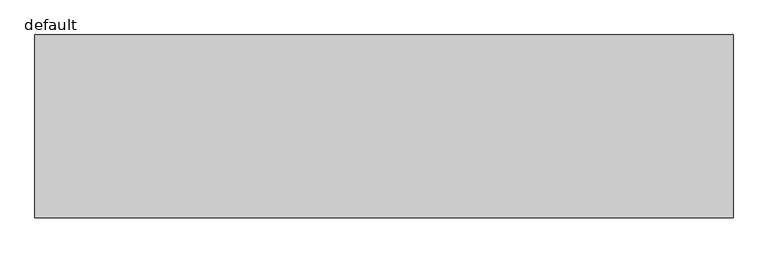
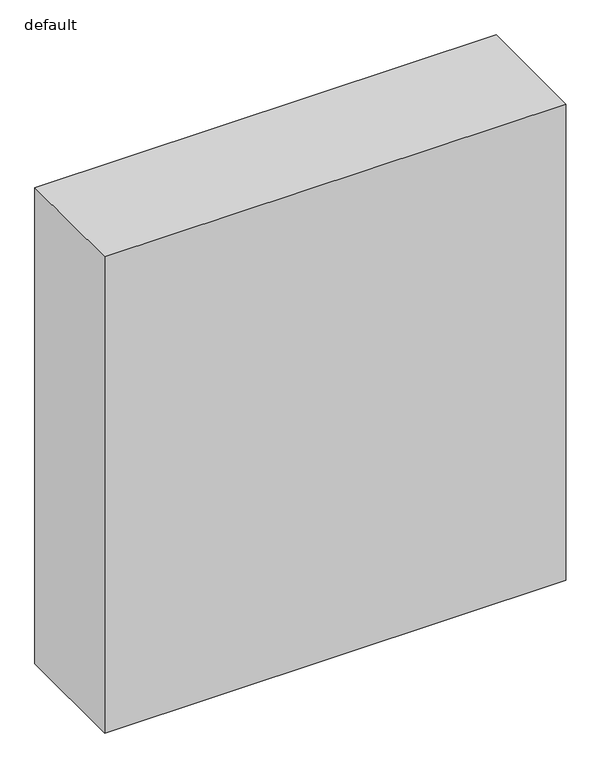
"""IFC4 building model written with IfcOpenShell, lengths in millimetres: furniture geometry, Fu_шкаф встроенный_LEG : default."""

import ifcopenshell
import ifcopenshell.guid

model = None  # the IFC model being written
_history = None  # IfcOwnerHistory: only IFC2X3 demands one
_inside = {}  # id of a spatial element -> (the spatial element, [elements in it])
_under = {}  # id of a project, library or spatial element -> (it, [spatial elements below it])
_declared = {}  # id of a project -> (the project, [libraries it declares])
_typed = {}  # id of a type object -> (the type object, [elements of that type])
_made_of = {}  # id of a material, layer set ... -> (it, [elements and type objects made of it])


def new_model(schema):
    """Start an empty IFC model of exactly this schema.

    Asked for "IFC4X3", IfcOpenShell would pick the latest addendum, in which some entities
    have other attributes; the version numbers below select the first issue.
    IFC2X3 requires an IfcOwnerHistory on every rooted entity: one is made here for all.
    """
    global model, _history
    if schema == "IFC4X3":
        model = ifcopenshell.file(schema_version=(4, 3, 0, 0))
    else:
        model = ifcopenshell.file(schema=schema)
    _inside.clear()
    _under.clear()
    _declared.clear()
    _typed.clear()
    _made_of.clear()
    _history = None
    if model.schema == "IFC2X3":
        org = make("IfcOrganization", Name="unknown")
        user = make(
            "IfcPersonAndOrganization",
            ThePerson=make("IfcPerson", FamilyName="unknown"),
            TheOrganization=org,
        )
        app = make(
            "IfcApplication",
            ApplicationDeveloper=org,
            Version="unknown",
            ApplicationFullName="unknown",
            ApplicationIdentifier="unknown",
        )
        _history = make(
            "IfcOwnerHistory",
            OwningUser=user,
            OwningApplication=app,
            ChangeAction="ADDED",
            CreationDate=0,
        )
    return model


def make(cls, **values):
    """One entity of the class cls with the attributes given. An attribute that is None is left unset."""
    return model.create_entity(
        cls, **{name: value for name, value in values.items() if value is not None}
    )


def rooted(cls, **values):
    """An entity with a GlobalId (a new one), such as an element, a storey or a relation."""
    return make(cls, GlobalId=ifcopenshell.guid.new(), OwnerHistory=_history, **values)


def si_unit(unit_type, name, prefix=None):
    """IfcSIUnit, for example si_unit("LENGTHUNIT", "METRE", prefix="MILLI")."""
    return make("IfcSIUnit", UnitType=unit_type, Prefix=prefix, Name=name)


def assignment(units):
    """IfcUnitAssignment: the units of a project."""
    return None if units is None else make("IfcUnitAssignment", Units=units)


def point(xyz):
    """IfcCartesianPoint."""
    return None if xyz is None else make("IfcCartesianPoint", Coordinates=xyz)


def direction(xyz):
    """IfcDirection."""
    return None if xyz is None else make("IfcDirection", DirectionRatios=xyz)


def frame(location, z_axis=None, x_axis=None):
    """IfcAxis2Placement3D, a coordinate frame: its origin and axes. An axis left out is left unset."""
    return make(
        "IfcAxis2Placement3D",
        Location=point(location),
        Axis=direction(z_axis),
        RefDirection=direction(x_axis),
    )


def origin():
    """The frame at (0, 0, 0) with its axes left unset."""
    return frame((0.0, 0.0, 0.0))


def origin_with_axes():
    """The frame at (0, 0, 0) with the z axis (0, 0, 1) and the x axis (1, 0, 0) written out."""
    return frame((0.0, 0.0, 0.0), z_axis=(0.0, 0.0, 1.0), x_axis=(1.0, 0.0, 0.0))


def place(relative_to, where):
    """IfcLocalPlacement: puts the frame where relative to a parent placement (None: the world)."""
    return make(
        "IfcLocalPlacement", PlacementRelTo=relative_to, RelativePlacement=where
    )


def context(
    kind, dimensions, precision=None, world=None, true_north=None, identifier=None
):
    """IfcGeometricRepresentationContext, for example the 3D "Model" context."""
    return make(
        "IfcGeometricRepresentationContext",
        ContextIdentifier=identifier,
        ContextType=kind,
        CoordinateSpaceDimension=dimensions,
        Precision=precision,
        WorldCoordinateSystem=world,
        TrueNorth=true_north,
    )


def project(units=None, contexts=None):
    """IfcProject with its units and contexts."""
    return rooted(
        "IfcProject",
        Name="project",
        RepresentationContexts=contexts,
        UnitsInContext=assignment(units),
    )


def spatial(cls, under=None, at=None, **own):
    """A site, building, storey or space (cls), placed at a placement, below another one or the project."""
    s = rooted(cls, ObjectPlacement=at, **own)
    if under is not None:
        _under.setdefault(under.id(), (under, []))[1].append(s)
    return s


def polyline(points):
    """IfcPolyline through the points."""
    return make("IfcPolyline", Points=[point(p) for p in points])


def outline(outer, holes=None, kind="AREA"):
    """IfcArbitraryClosedProfileDef: a profile drawn as a closed curve; with holes, ...WithVoids."""
    if holes is None:
        return make("IfcArbitraryClosedProfileDef", ProfileType=kind, OuterCurve=outer)
    return make(
        "IfcArbitraryProfileDefWithVoids",
        ProfileType=kind,
        OuterCurve=outer,
        InnerCurves=holes,
    )


def extrude(swept, where, along, depth):
    """IfcExtrudedAreaSolid: the profile swept, set in the frame where, extruded along a direction by depth."""
    return make(
        "IfcExtrudedAreaSolid",
        SweptArea=swept,
        Position=where,
        ExtrudedDirection=direction(along),
        Depth=depth,
    )


def shape(context_of_items, identifier, shape_type, items):
    """IfcShapeRepresentation: the items that make up one representation, for example the "Body"."""
    return make(
        "IfcShapeRepresentation",
        ContextOfItems=context_of_items,
        RepresentationIdentifier=identifier,
        RepresentationType=shape_type,
        Items=items,
    )


def source(mapping_origin, context_of_items, identifier, shape_type, items):
    """IfcRepresentationMap: a shape defined once, which mapped items show again and again."""
    return make(
        "IfcRepresentationMap",
        MappingOrigin=mapping_origin,
        MappedRepresentation=shape(context_of_items, identifier, shape_type, items),
    )


def transform(
    local_origin,
    x_axis=None,
    y_axis=None,
    z_axis=None,
    scale=None,
    scale2=None,
    scale3=None,
    uniform=True,
):
    """IfcCartesianTransformationOperator3D, or its non-uniform kind. x_axis, y_axis, z_axis: its Axis1, 2, 3."""
    if uniform:
        return make(
            "IfcCartesianTransformationOperator3D",
            Axis1=direction(x_axis),
            Axis2=direction(y_axis),
            LocalOrigin=point(local_origin),
            Scale=scale,
            Axis3=direction(z_axis),
        )
    return make(
        "IfcCartesianTransformationOperator3DnonUniform",
        Axis1=direction(x_axis),
        Axis2=direction(y_axis),
        LocalOrigin=point(local_origin),
        Scale=scale,
        Axis3=direction(z_axis),
        Scale2=scale2,
        Scale3=scale3,
    )


def mapped(mapping_source, mapping_target):
    """IfcMappedItem: shows the shape of a source again, moved by a transform."""
    return make(
        "IfcMappedItem", MappingSource=mapping_source, MappingTarget=mapping_target
    )


def made_of(thing, what):
    """Note that an element or type object is made of a material, layer set ...; save() writes the relation."""
    if what is not None:
        _made_of.setdefault(what.id(), (what, []))[1].append(thing)
    return thing


def element(
    cls,
    number,
    at=None,
    inside=None,
    cuts=None,
    type_object=None,
    material=None,
    context=None,
    identifier="Body",
    shape_type=None,
    held_by="IfcProductDefinitionShape",
    body=None,
    shapes=None,
    **own,
):
    """One element of the class cls, such as IfcWall. Its Tag is "e" and its number.

    at: its placement. inside: the storey or other place that contains it. cuts: it is an
    opening in that element (IfcRelVoidsElement). A single representation is given by context,
    identifier, shape_type and body (its items); several are given by shapes. held_by: the class
    of the entity that holds the representations. save() writes the other relations.
    """
    e = rooted(cls, Tag="e%d" % number, ObjectPlacement=at, **own)
    if body is not None:
        shapes = [shape(context, identifier, shape_type, body)]
    if shapes is not None:
        e.Representation = make(held_by, Representations=shapes)
    if inside is not None:
        _inside.setdefault(inside.id(), (inside, []))[1].append(e)
    if cuts is not None:
        rooted(
            "IfcRelVoidsElement", RelatingBuildingElement=cuts, RelatedOpeningElement=e
        )
    if type_object is not None:
        _typed.setdefault(type_object.id(), (type_object, []))[1].append(e)
    return made_of(e, material)


def aggregate(whole, parts):
    """IfcRelAggregates: a whole, such as a stair, and the parts it consists of."""
    return rooted("IfcRelAggregates", RelatingObject=whole, RelatedObjects=parts)


def save(model, path):
    """Write the relations noted so far, then the file.

    IfcRelAggregates (storeys below a building ...), IfcRelContainedInSpatialStructure (elements
    in a storey), IfcRelDefinesByType, IfcRelAssociatesMaterial and IfcRelDeclares: one each for
    every whole, place, type object, material and project.
    """
    for whole, parts in _under.values():
        aggregate(whole, parts)
    for where, things in _inside.values():
        rooted(
            "IfcRelContainedInSpatialStructure",
            RelatedElements=things,
            RelatingStructure=where,
        )
    for kind, things in _typed.values():
        rooted("IfcRelDefinesByType", RelatedObjects=things, RelatingType=kind)
    for what, things in _made_of.values():
        rooted("IfcRelAssociatesMaterial", RelatedObjects=things, RelatingMaterial=what)
    for by, libraries in _declared.values():
        rooted("IfcRelDeclares", RelatingContext=by, RelatedDefinitions=libraries)
    model.write(path)


def default_f99b8f09(model_context):
    return source(origin(), model_context, "Body", "SweptSolid", [
        extrude(outline(polyline([(2290.0, 0.0), (2290.0, -600.0), (0.0, -600.0), (0.0, 0.0), (2290.0, 0.0)])), origin_with_axes(), (0.0, 0.0, 1.0), 2500.0),
    ])


if __name__ == "__main__":
    model = new_model("IFC4")
    model_context = context("Model", 3, world=origin())
    ifc_project = project(units=[si_unit("LENGTHUNIT", "METRE", prefix="MILLI")], contexts=[model_context])
    site = spatial("IfcSite", under=ifc_project)
    building = spatial("IfcBuilding", under=site)
    placement = place(None, origin())
    default_shape = default_f99b8f09(model_context)
    element("IfcFurniture", 1, ObjectType="Fu_шкаф встроенный_LEG : default", at=placement, inside=building, context=model_context, shape_type="MappedRepresentation", body=[
        mapped(default_shape, transform((0.0, 0.0, 0.0), x_axis=(1.0, 0.0, 0.0), y_axis=(0.0, 1.0, 0.0), z_axis=(0.0, 0.0, 1.0))),
    ])
    save(model, "model.ifc")
